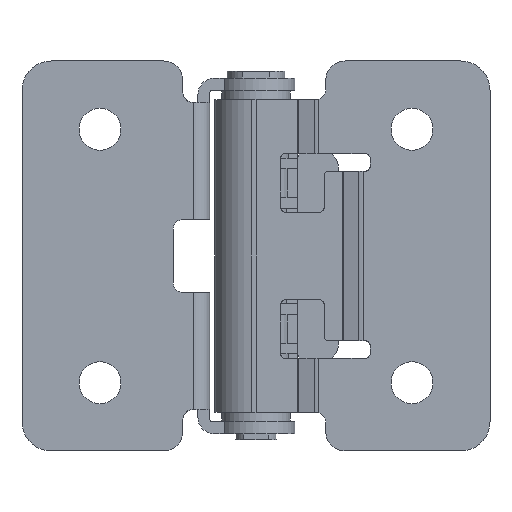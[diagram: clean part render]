
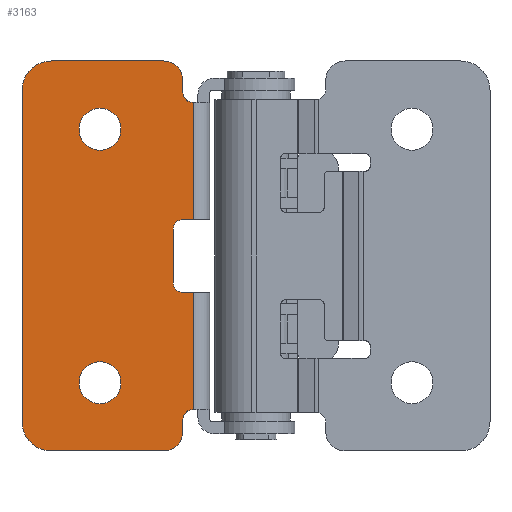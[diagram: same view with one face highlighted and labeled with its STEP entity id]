
A CAD part, front view. The second image highlights one B-rep face of the part: STEP entity #3163.
In plain terms, the highlighted planar face has unit normal (0, -1, 0).
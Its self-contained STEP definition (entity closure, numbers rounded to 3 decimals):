
#112=PLANE('',#3479);
#362=LINE('',#5151,#672);
#392=LINE('',#5250,#702);
#394=LINE('',#5258,#704);
#395=LINE('',#5268,#705);
#398=LINE('',#5274,#708);
#415=LINE('',#5323,#725);
#416=LINE('',#5327,#726);
#417=LINE('',#5328,#727);
#418=LINE('',#5332,#728);
#419=LINE('',#5336,#729);
#420=LINE('',#5337,#730);
#421=LINE('',#5341,#731);
#672=VECTOR('',#4181,1000.);
#702=VECTOR('',#4265,1000.);
#704=VECTOR('',#4273,1000.);
#705=VECTOR('',#4282,1000.);
#708=VECTOR('',#4287,1000.);
#725=VECTOR('',#4334,1000.);
#726=VECTOR('',#4337,1000.);
#727=VECTOR('',#4338,1000.);
#728=VECTOR('',#4341,1000.);
#729=VECTOR('',#4344,1000.);
#730=VECTOR('',#4345,1000.);
#731=VECTOR('',#4348,1000.);
#1513=ORIENTED_EDGE('',*,*,#2098,.F.);
#1514=ORIENTED_EDGE('',*,*,#2099,.F.);
#1515=ORIENTED_EDGE('',*,*,#2065,.T.);
#1516=ORIENTED_EDGE('',*,*,#2100,.T.);
#1517=ORIENTED_EDGE('',*,*,#2076,.T.);
#1518=ORIENTED_EDGE('',*,*,#2101,.T.);
#1519=ORIENTED_EDGE('',*,*,#2102,.T.);
#1520=ORIENTED_EDGE('',*,*,#2103,.F.);
#1521=ORIENTED_EDGE('',*,*,#2104,.T.);
#1522=ORIENTED_EDGE('',*,*,#2069,.F.);
#1523=ORIENTED_EDGE('',*,*,#2105,.T.);
#1524=ORIENTED_EDGE('',*,*,#2106,.F.);
#1525=ORIENTED_EDGE('',*,*,#2107,.T.);
#1526=ORIENTED_EDGE('',*,*,#2108,.F.);
#1527=ORIENTED_EDGE('',*,*,#2109,.T.);
#1528=ORIENTED_EDGE('',*,*,#2015,.F.);
#1529=ORIENTED_EDGE('',*,*,#2110,.T.);
#1530=ORIENTED_EDGE('',*,*,#2111,.F.);
#1531=ORIENTED_EDGE('',*,*,#2112,.T.);
#1532=ORIENTED_EDGE('',*,*,#2113,.T.);
#1533=ORIENTED_EDGE('',*,*,#2073,.F.);
#1534=ORIENTED_EDGE('',*,*,#2114,.T.);
#2015=EDGE_CURVE('',#2374,#2375,#362,.T.);
#2065=EDGE_CURVE('',#2417,#2416,#392,.T.);
#2069=EDGE_CURVE('',#2419,#2418,#394,.T.);
#2073=EDGE_CURVE('',#2421,#2422,#395,.T.);
#2076=EDGE_CURVE('',#2423,#2424,#398,.T.);
#2098=EDGE_CURVE('',#2437,#2437,#2586,.T.);
#2099=EDGE_CURVE('',#2438,#2438,#2587,.T.);
#2100=EDGE_CURVE('',#2416,#2423,#2588,.F.);
#2101=EDGE_CURVE('',#2424,#2439,#2589,.F.);
#2102=EDGE_CURVE('',#2439,#2440,#415,.T.);
#2103=EDGE_CURVE('',#2441,#2440,#2590,.F.);
#2104=EDGE_CURVE('',#2441,#2418,#416,.T.);
#2105=EDGE_CURVE('',#2419,#2442,#417,.T.);
#2106=EDGE_CURVE('',#2443,#2442,#2591,.F.);
#2107=EDGE_CURVE('',#2443,#2444,#418,.T.);
#2108=EDGE_CURVE('',#2445,#2444,#2592,.F.);
#2109=EDGE_CURVE('',#2445,#2375,#419,.T.);
#2110=EDGE_CURVE('',#2374,#2446,#420,.T.);
#2111=EDGE_CURVE('',#2447,#2446,#2593,.F.);
#2112=EDGE_CURVE('',#2447,#2448,#421,.T.);
#2113=EDGE_CURVE('',#2448,#2422,#2594,.F.);
#2114=EDGE_CURVE('',#2421,#2417,#2595,.F.);
#2374=VERTEX_POINT('',#5150);
#2375=VERTEX_POINT('',#5152);
#2416=VERTEX_POINT('',#5249);
#2417=VERTEX_POINT('',#5251);
#2418=VERTEX_POINT('',#5255);
#2419=VERTEX_POINT('',#5257);
#2421=VERTEX_POINT('',#5269);
#2422=VERTEX_POINT('',#5270);
#2423=VERTEX_POINT('',#5275);
#2424=VERTEX_POINT('',#5276);
#2437=VERTEX_POINT('',#5317);
#2438=VERTEX_POINT('',#5319);
#2439=VERTEX_POINT('',#5322);
#2440=VERTEX_POINT('',#5324);
#2441=VERTEX_POINT('',#5326);
#2442=VERTEX_POINT('',#5329);
#2443=VERTEX_POINT('',#5331);
#2444=VERTEX_POINT('',#5333);
#2445=VERTEX_POINT('',#5335);
#2446=VERTEX_POINT('',#5338);
#2447=VERTEX_POINT('',#5340);
#2448=VERTEX_POINT('',#5342);
#2586=CIRCLE('',#3480,2.15);
#2587=CIRCLE('',#3481,2.15);
#2588=CIRCLE('',#3482,3.);
#2589=CIRCLE('',#3483,2.);
#2590=CIRCLE('',#3484,1.);
#2591=CIRCLE('',#3485,1.);
#2592=CIRCLE('',#3486,1.);
#2593=CIRCLE('',#3487,1.);
#2594=CIRCLE('',#3488,2.);
#2595=CIRCLE('',#3489,3.);
#2746=EDGE_LOOP('',(#1513));
#2747=EDGE_LOOP('',(#1514));
#2748=EDGE_LOOP('',(#1515,#1516,#1517,#1518,#1519,#1520,#1521,#1522,#1523,
#1524,#1525,#1526,#1527,#1528,#1529,#1530,#1531,#1532,#1533,#1534));
#2930=FACE_BOUND('',#2746,.T.);
#2931=FACE_BOUND('',#2747,.T.);
#2932=FACE_BOUND('',#2748,.T.);
#3163=ADVANCED_FACE('',(#2930,#2931,#2932),#112,.F.);
#3479=AXIS2_PLACEMENT_3D('',#5315,#4324,#4325);
#3480=AXIS2_PLACEMENT_3D('',#5316,#4326,#4327);
#3481=AXIS2_PLACEMENT_3D('',#5318,#4328,#4329);
#3482=AXIS2_PLACEMENT_3D('',#5320,#4330,#4331);
#3483=AXIS2_PLACEMENT_3D('',#5321,#4332,#4333);
#3484=AXIS2_PLACEMENT_3D('',#5325,#4335,#4336);
#3485=AXIS2_PLACEMENT_3D('',#5330,#4339,#4340);
#3486=AXIS2_PLACEMENT_3D('',#5334,#4342,#4343);
#3487=AXIS2_PLACEMENT_3D('',#5339,#4346,#4347);
#3488=AXIS2_PLACEMENT_3D('',#5343,#4349,#4350);
#3489=AXIS2_PLACEMENT_3D('',#5344,#4351,#4352);
#4181=DIRECTION('',(0.,0.,-1.));
#4265=DIRECTION('',(0.,0.,-1.));
#4273=DIRECTION('',(0.,0.,-1.));
#4282=DIRECTION('',(1.,0.,0.));
#4287=DIRECTION('',(1.,0.,0.));
#4324=DIRECTION('',(0.,1.,0.));
#4325=DIRECTION('',(0.,0.,1.));
#4326=DIRECTION('',(0.,-1.,0.));
#4327=DIRECTION('',(0.,0.,-1.));
#4328=DIRECTION('',(0.,-1.,0.));
#4329=DIRECTION('',(0.,0.,-1.));
#4330=DIRECTION('',(0.,1.,0.));
#4331=DIRECTION('',(0.,0.,1.));
#4332=DIRECTION('',(0.,1.,0.));
#4333=DIRECTION('',(0.,0.,1.));
#4334=DIRECTION('',(0.,0.,1.));
#4335=DIRECTION('',(0.,1.,0.));
#4336=DIRECTION('',(0.,0.,1.));
#4337=DIRECTION('',(1.,0.,0.));
#4338=DIRECTION('',(-1.,0.,0.));
#4339=DIRECTION('',(0.,1.,0.));
#4340=DIRECTION('',(0.,0.,1.));
#4341=DIRECTION('',(0.,0.,1.));
#4342=DIRECTION('',(0.,1.,0.));
#4343=DIRECTION('',(0.,0.,1.));
#4344=DIRECTION('',(1.,0.,0.));
#4345=DIRECTION('',(-1.,0.,0.));
#4346=DIRECTION('',(0.,1.,0.));
#4347=DIRECTION('',(0.,0.,1.));
#4348=DIRECTION('',(0.,0.,1.));
#4349=DIRECTION('',(0.,1.,0.));
#4350=DIRECTION('',(0.,0.,1.));
#4351=DIRECTION('',(0.,1.,0.));
#4352=DIRECTION('',(0.,0.,1.));
#5150=CARTESIAN_POINT('',(-6.45,-4.75,15.75));
#5151=CARTESIAN_POINT('',(-6.45,-4.75,20.));
#5152=CARTESIAN_POINT('',(-6.45,-4.75,3.75));
#5249=CARTESIAN_POINT('',(-24.,-4.75,-17.));
#5250=CARTESIAN_POINT('',(-24.,-4.75,20.));
#5251=CARTESIAN_POINT('',(-24.,-4.75,17.));
#5255=CARTESIAN_POINT('',(-6.45,-4.75,-15.75));
#5257=CARTESIAN_POINT('',(-6.45,-4.75,-3.75));
#5258=CARTESIAN_POINT('',(-6.45,-4.75,20.));
#5268=CARTESIAN_POINT('',(-24.,-4.75,20.));
#5269=CARTESIAN_POINT('',(-21.,-4.75,20.));
#5270=CARTESIAN_POINT('',(-9.5,-4.75,20.));
#5274=CARTESIAN_POINT('',(-24.,-4.75,-20.));
#5275=CARTESIAN_POINT('',(-21.,-4.75,-20.));
#5276=CARTESIAN_POINT('',(-9.5,-4.75,-20.));
#5315=CARTESIAN_POINT('',(-24.,-4.75,20.));
#5316=CARTESIAN_POINT('',(-16.,-4.75,-13.));
#5317=CARTESIAN_POINT('',(-16.,-4.75,-15.15));
#5318=CARTESIAN_POINT('',(-16.,-4.75,13.));
#5319=CARTESIAN_POINT('',(-16.,-4.75,10.85));
#5320=CARTESIAN_POINT('',(-21.,-4.75,-17.));
#5321=CARTESIAN_POINT('',(-9.5,-4.75,-18.));
#5322=CARTESIAN_POINT('',(-7.5,-4.75,-18.));
#5323=CARTESIAN_POINT('',(-7.5,-4.75,20.));
#5324=CARTESIAN_POINT('',(-7.5,-4.75,-16.75));
#5325=CARTESIAN_POINT('',(-6.5,-4.75,-16.75));
#5326=CARTESIAN_POINT('',(-6.5,-4.75,-15.75));
#5327=CARTESIAN_POINT('',(-24.,-4.75,-15.75));
#5328=CARTESIAN_POINT('',(-24.,-4.75,-3.75));
#5329=CARTESIAN_POINT('',(-7.5,-4.75,-3.75));
#5330=CARTESIAN_POINT('',(-7.5,-4.75,-2.75));
#5331=CARTESIAN_POINT('',(-8.5,-4.75,-2.75));
#5332=CARTESIAN_POINT('',(-8.5,-4.75,20.));
#5333=CARTESIAN_POINT('',(-8.5,-4.75,2.75));
#5334=CARTESIAN_POINT('',(-7.5,-4.75,2.75));
#5335=CARTESIAN_POINT('',(-7.5,-4.75,3.75));
#5336=CARTESIAN_POINT('',(-24.,-4.75,3.75));
#5337=CARTESIAN_POINT('',(-24.,-4.75,15.75));
#5338=CARTESIAN_POINT('',(-6.5,-4.75,15.75));
#5339=CARTESIAN_POINT('',(-6.5,-4.75,16.75));
#5340=CARTESIAN_POINT('',(-7.5,-4.75,16.75));
#5341=CARTESIAN_POINT('',(-7.5,-4.75,20.));
#5342=CARTESIAN_POINT('',(-7.5,-4.75,18.));
#5343=CARTESIAN_POINT('',(-9.5,-4.75,18.));
#5344=CARTESIAN_POINT('',(-21.,-4.75,17.));
